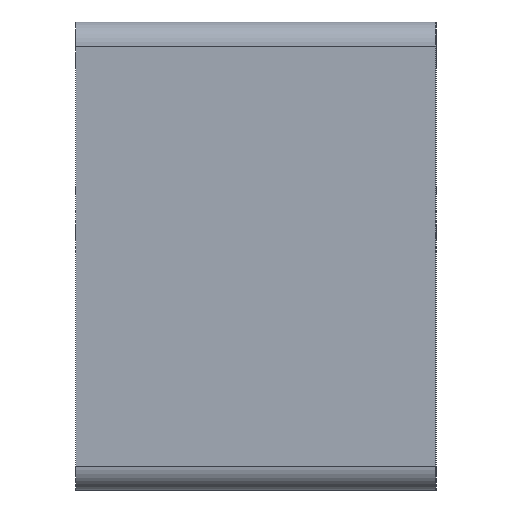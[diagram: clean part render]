
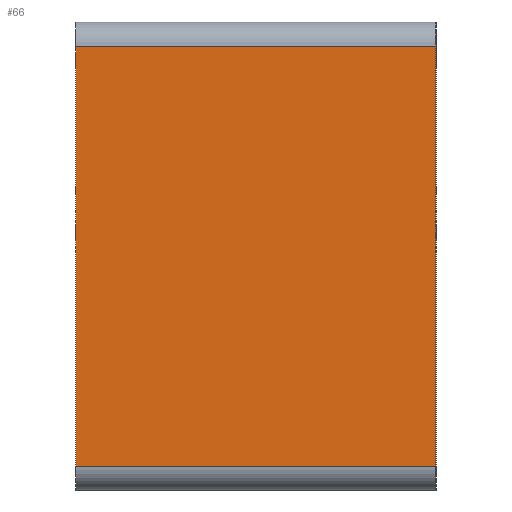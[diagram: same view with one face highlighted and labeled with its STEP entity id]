
A CAD part, left-side view. The second image highlights one B-rep face of the part: STEP entity #66.
In plain terms, the highlighted planar face has unit normal (-1, 0, 0).
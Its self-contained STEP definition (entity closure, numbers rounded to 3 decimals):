
#66=ADVANCED_FACE('',(#168),#170,.T.);
#168=FACE_BOUND('',#169,.T.);
#169=EDGE_LOOP('',(#333,#334,#335,#336));
#170=PLANE('',#171);
#171=AXIS2_PLACEMENT_3D('',#172,#173,#174);
#172=CARTESIAN_POINT('',(-19.5,15.,0.));
#173=DIRECTION('',(-1.,0.,0.));
#174=DIRECTION('',(0.,-1.,0.));
#333=ORIENTED_EDGE('',*,*,#437,.T.);
#334=ORIENTED_EDGE('',*,*,#396,.T.);
#335=ORIENTED_EDGE('',*,*,#438,.F.);
#336=ORIENTED_EDGE('',*,*,#402,.F.);
#396=EDGE_CURVE('',#482,#480,#483,.T.);
#402=EDGE_CURVE('',#492,#494,#495,.T.);
#437=EDGE_CURVE('',#492,#482,#547,.T.);
#438=EDGE_CURVE('',#494,#480,#548,.T.);
#480=VERTEX_POINT('',#632);
#482=VERTEX_POINT('',#637);
#483=LINE('',#638,#639);
#492=VERTEX_POINT('',#659);
#494=VERTEX_POINT('',#664);
#495=LINE('',#665,#666);
#547=LINE('',#793,#794);
#548=LINE('',#796,#797);
#632=CARTESIAN_POINT('',(-19.5,0.,18.5));
#637=CARTESIAN_POINT('',(-19.5,0.,1.));
#638=CARTESIAN_POINT('',(-19.5,0.,1.));
#639=VECTOR('',#640,1.);
#640=DIRECTION('',(0.,0.,1.));
#659=CARTESIAN_POINT('',(-19.5,15.,1.));
#664=CARTESIAN_POINT('',(-19.5,15.,18.5));
#665=CARTESIAN_POINT('',(-19.5,15.,1.));
#666=VECTOR('',#667,1.);
#667=DIRECTION('',(0.,0.,1.));
#793=CARTESIAN_POINT('',(-19.5,15.,1.));
#794=VECTOR('',#795,1.);
#795=DIRECTION('',(0.,-1.,0.));
#796=CARTESIAN_POINT('',(-19.5,15.,18.5));
#797=VECTOR('',#798,1.);
#798=DIRECTION('',(0.,-1.,0.));
